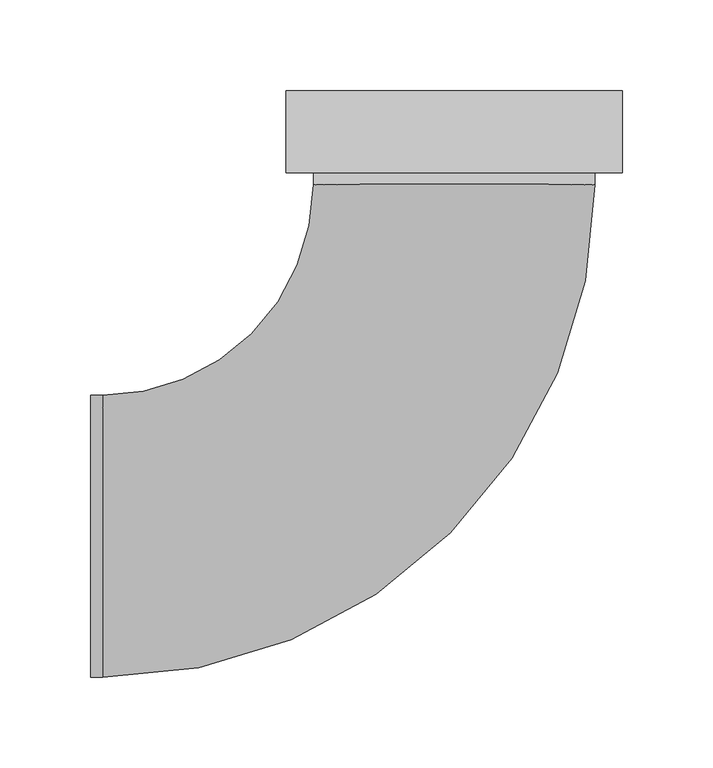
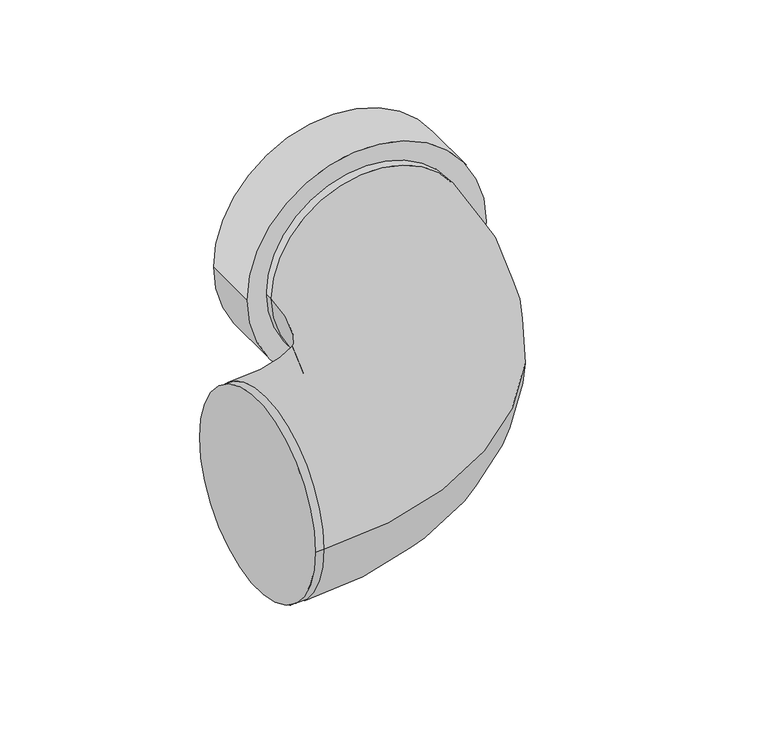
"""IFC4 building model written with IfcOpenShell, lengths in millimetres: duct fitting geometry, NLRS_57_DUF_UN_bend EPP_M&G : ø125 - ø180."""

import ifcopenshell
import ifcopenshell.guid

model = None  # the IFC model being written
_history = None  # IfcOwnerHistory: only IFC2X3 demands one
_inside = {}  # id of a spatial element -> (the spatial element, [elements in it])
_under = {}  # id of a project, library or spatial element -> (it, [spatial elements below it])
_declared = {}  # id of a project -> (the project, [libraries it declares])
_typed = {}  # id of a type object -> (the type object, [elements of that type])
_made_of = {}  # id of a material, layer set ... -> (it, [elements and type objects made of it])


def new_model(schema):
    """Start an empty IFC model of exactly this schema.

    Asked for "IFC4X3", IfcOpenShell would pick the latest addendum, in which some entities
    have other attributes; the version numbers below select the first issue.
    IFC2X3 requires an IfcOwnerHistory on every rooted entity: one is made here for all.
    """
    global model, _history
    if schema == "IFC4X3":
        model = ifcopenshell.file(schema_version=(4, 3, 0, 0))
    else:
        model = ifcopenshell.file(schema=schema)
    _inside.clear()
    _under.clear()
    _declared.clear()
    _typed.clear()
    _made_of.clear()
    _history = None
    if model.schema == "IFC2X3":
        org = make("IfcOrganization", Name="unknown")
        user = make(
            "IfcPersonAndOrganization",
            ThePerson=make("IfcPerson", FamilyName="unknown"),
            TheOrganization=org,
        )
        app = make(
            "IfcApplication",
            ApplicationDeveloper=org,
            Version="unknown",
            ApplicationFullName="unknown",
            ApplicationIdentifier="unknown",
        )
        _history = make(
            "IfcOwnerHistory",
            OwningUser=user,
            OwningApplication=app,
            ChangeAction="ADDED",
            CreationDate=0,
        )
    return model


def make(cls, **values):
    """One entity of the class cls with the attributes given. An attribute that is None is left unset."""
    return model.create_entity(
        cls, **{name: value for name, value in values.items() if value is not None}
    )


def rooted(cls, **values):
    """An entity with a GlobalId (a new one), such as an element, a storey or a relation."""
    return make(cls, GlobalId=ifcopenshell.guid.new(), OwnerHistory=_history, **values)


def si_unit(unit_type, name, prefix=None):
    """IfcSIUnit, for example si_unit("LENGTHUNIT", "METRE", prefix="MILLI")."""
    return make("IfcSIUnit", UnitType=unit_type, Prefix=prefix, Name=name)


def assignment(units):
    """IfcUnitAssignment: the units of a project."""
    return None if units is None else make("IfcUnitAssignment", Units=units)


def point(xyz):
    """IfcCartesianPoint."""
    return None if xyz is None else make("IfcCartesianPoint", Coordinates=xyz)


def direction(xyz):
    """IfcDirection."""
    return None if xyz is None else make("IfcDirection", DirectionRatios=xyz)


def frame(location, z_axis=None, x_axis=None):
    """IfcAxis2Placement3D, a coordinate frame: its origin and axes. An axis left out is left unset."""
    return make(
        "IfcAxis2Placement3D",
        Location=point(location),
        Axis=direction(z_axis),
        RefDirection=direction(x_axis),
    )


def origin():
    """The frame at (0, 0, 0) with its axes left unset."""
    return frame((0.0, 0.0, 0.0))


def place(relative_to, where):
    """IfcLocalPlacement: puts the frame where relative to a parent placement (None: the world)."""
    return make(
        "IfcLocalPlacement", PlacementRelTo=relative_to, RelativePlacement=where
    )


def context(
    kind, dimensions, precision=None, world=None, true_north=None, identifier=None
):
    """IfcGeometricRepresentationContext, for example the 3D "Model" context."""
    return make(
        "IfcGeometricRepresentationContext",
        ContextIdentifier=identifier,
        ContextType=kind,
        CoordinateSpaceDimension=dimensions,
        Precision=precision,
        WorldCoordinateSystem=world,
        TrueNorth=true_north,
    )


def project(units=None, contexts=None):
    """IfcProject with its units and contexts."""
    return rooted(
        "IfcProject",
        Name="project",
        RepresentationContexts=contexts,
        UnitsInContext=assignment(units),
    )


def spatial(cls, under=None, at=None, **own):
    """A site, building, storey or space (cls), placed at a placement, below another one or the project."""
    s = rooted(cls, ObjectPlacement=at, **own)
    if under is not None:
        _under.setdefault(under.id(), (under, []))[1].append(s)
    return s


def polyline(points):
    """IfcPolyline through the points."""
    return make("IfcPolyline", Points=[point(p) for p in points])


def circle_curve(where, radius):
    """IfcCircle in the frame where."""
    return make("IfcCircle", Position=where, Radius=radius)


def ellipse_curve(where, semi_axis1, semi_axis2):
    """IfcEllipse in the frame where."""
    return make(
        "IfcEllipse", Position=where, SemiAxis1=semi_axis1, SemiAxis2=semi_axis2
    )


def trimmed(basis, trim1, trim2, sense, master):
    """IfcTrimmedCurve: the piece of a basis curve between two trims."""
    return make(
        "IfcTrimmedCurve",
        BasisCurve=basis,
        Trim1=trim1,
        Trim2=trim2,
        SenseAgreement=sense,
        MasterRepresentation=master,
    )


def shape(context_of_items, identifier, shape_type, items):
    """IfcShapeRepresentation: the items that make up one representation, for example the "Body"."""
    return make(
        "IfcShapeRepresentation",
        ContextOfItems=context_of_items,
        RepresentationIdentifier=identifier,
        RepresentationType=shape_type,
        Items=items,
    )


def source(mapping_origin, context_of_items, identifier, shape_type, items):
    """IfcRepresentationMap: a shape defined once, which mapped items show again and again."""
    return make(
        "IfcRepresentationMap",
        MappingOrigin=mapping_origin,
        MappedRepresentation=shape(context_of_items, identifier, shape_type, items),
    )


def transform(
    local_origin,
    x_axis=None,
    y_axis=None,
    z_axis=None,
    scale=None,
    scale2=None,
    scale3=None,
    uniform=True,
):
    """IfcCartesianTransformationOperator3D, or its non-uniform kind. x_axis, y_axis, z_axis: its Axis1, 2, 3."""
    if uniform:
        return make(
            "IfcCartesianTransformationOperator3D",
            Axis1=direction(x_axis),
            Axis2=direction(y_axis),
            LocalOrigin=point(local_origin),
            Scale=scale,
            Axis3=direction(z_axis),
        )
    return make(
        "IfcCartesianTransformationOperator3DnonUniform",
        Axis1=direction(x_axis),
        Axis2=direction(y_axis),
        LocalOrigin=point(local_origin),
        Scale=scale,
        Axis3=direction(z_axis),
        Scale2=scale2,
        Scale3=scale3,
    )


def mapped(mapping_source, mapping_target):
    """IfcMappedItem: shows the shape of a source again, moved by a transform."""
    return make(
        "IfcMappedItem", MappingSource=mapping_source, MappingTarget=mapping_target
    )


def made_of(thing, what):
    """Note that an element or type object is made of a material, layer set ...; save() writes the relation."""
    if what is not None:
        _made_of.setdefault(what.id(), (what, []))[1].append(thing)
    return thing


def element(
    cls,
    number,
    at=None,
    inside=None,
    cuts=None,
    type_object=None,
    material=None,
    context=None,
    identifier="Body",
    shape_type=None,
    held_by="IfcProductDefinitionShape",
    body=None,
    shapes=None,
    **own,
):
    """One element of the class cls, such as IfcWall. Its Tag is "e" and its number.

    at: its placement. inside: the storey or other place that contains it. cuts: it is an
    opening in that element (IfcRelVoidsElement). A single representation is given by context,
    identifier, shape_type and body (its items); several are given by shapes. held_by: the class
    of the entity that holds the representations. save() writes the other relations.
    """
    e = rooted(cls, Tag="e%d" % number, ObjectPlacement=at, **own)
    if body is not None:
        shapes = [shape(context, identifier, shape_type, body)]
    if shapes is not None:
        e.Representation = make(held_by, Representations=shapes)
    if inside is not None:
        _inside.setdefault(inside.id(), (inside, []))[1].append(e)
    if cuts is not None:
        rooted(
            "IfcRelVoidsElement", RelatingBuildingElement=cuts, RelatedOpeningElement=e
        )
    if type_object is not None:
        _typed.setdefault(type_object.id(), (type_object, []))[1].append(e)
    return made_of(e, material)


def aggregate(whole, parts):
    """IfcRelAggregates: a whole, such as a stair, and the parts it consists of."""
    return rooted("IfcRelAggregates", RelatingObject=whole, RelatedObjects=parts)


def save(model, path):
    """Write the relations noted so far, then the file.

    IfcRelAggregates (storeys below a building ...), IfcRelContainedInSpatialStructure (elements
    in a storey), IfcRelDefinesByType, IfcRelAssociatesMaterial and IfcRelDeclares: one each for
    every whole, place, type object, material and project.
    """
    for whole, parts in _under.values():
        aggregate(whole, parts)
    for where, things in _inside.values():
        rooted(
            "IfcRelContainedInSpatialStructure",
            RelatedElements=things,
            RelatingStructure=where,
        )
    for kind, things in _typed.values():
        rooted("IfcRelDefinesByType", RelatedObjects=things, RelatingType=kind)
    for what, things in _made_of.values():
        rooted("IfcRelAssociatesMaterial", RelatedObjects=things, RelatingMaterial=what)
    for by, libraries in _declared.values():
        rooted("IfcRelDeclares", RelatingContext=by, RelatedDefinitions=libraries)
    model.write(path)


def plane_surface(at):
    """IfcPlane: the flat surface through the origin of the frame at, square to its z axis."""
    return make("IfcPlane", Position=at)


def cylinder_surface(at, radius):
    """IfcCylindricalSurface: all points at the distance radius from the z axis of the frame at."""
    return make("IfcCylindricalSurface", Position=at, Radius=radius)


def revolved_surface(curve, axis_point, axis_direction):
    """IfcSurfaceOfRevolution: the curve turned about the line through axis_point along axis_direction."""
    return make(
        "IfcSurfaceOfRevolution",
        SweptCurve=make("IfcArbitraryOpenProfileDef", ProfileType="CURVE", Curve=curve),
        AxisPosition=make("IfcAxis1Placement", Location=point(axis_point), Axis=direction(axis_direction)),
    )


def advanced_brep(points, edges, surfaces, faces):
    """IfcAdvancedBrep: a solid bounded by faces that lie on surfaces and meet in shared edges.

    An edge is (start, end): straight between two places in points (the first is 0);
    or (start, end, curve); or (start, end, curve, False) where it runs against its curve.
    A face is (place in surfaces, loops), or (place, loops, False) where it looks against
    its surface's normal. A loop lists edges by number (the first is 1), with a minus sign
    where the edge is run from its end to its start. The first loop is the outer one.
    """
    corners = [point(p) for p in points]
    vertices = [make("IfcVertexPoint", VertexGeometry=c) for c in corners]
    made = []
    for start, end, *more in edges:
        made.append(
            make(
                "IfcEdgeCurve",
                EdgeStart=vertices[start],
                EdgeEnd=vertices[end],
                EdgeGeometry=more[0] if more else make("IfcPolyline", Points=[corners[start], corners[end]]),
                SameSense=more[1] if len(more) > 1 else True,
            )
        )
    hull = []
    for where, loops, *sense in faces:
        bounds = []
        for j, loop in enumerate(loops):
            ring = [make("IfcOrientedEdge", EdgeElement=made[abs(k) - 1], Orientation=k > 0) for k in loop]
            bounds.append(
                make(
                    "IfcFaceOuterBound" if j == 0 else "IfcFaceBound",
                    Bound=make("IfcEdgeLoop", EdgeList=ring),
                    Orientation=True,
                )
            )
        hull.append(make("IfcAdvancedFace", Bounds=bounds, FaceSurface=surfaces[where], SameSense=sense[0] if sense else True))
    return make("IfcAdvancedBrep", Outer=make("IfcClosedShell", CfsFaces=hull))


def duct_fitting_0c18537b(model_context):
    return source(origin(), model_context, "Body", "AdvancedBrep", [
        advanced_brep(
        [(-200.0, -77.5, 0.0), (-200.0, 77.5, 0.0), (-193.5, -77.5, 0.0), (-193.5, 77.5, 0.0), (-77.5, 193.5, 0.0), (77.5, 193.5, 0.0), (77.5, 205.0, 0.0), (-77.5, 205.0, 0.0)],
        [
            (0, 1, circle_curve(frame((-200.0, 0.0, 0.0), z_axis=(-1.0, 0.0, 0.0), x_axis=(0.0, 1.0, 0.0)), 77.5)),
            (1, 0, circle_curve(frame((-200.0, 0.0, 0.0), z_axis=(-1.0, 0.0, 0.0), x_axis=(0.0, 1.0, 0.0)), 77.5)),
            (0, 2),
            (2, 3, circle_curve(frame((-193.5, 0.0, 0.0), z_axis=(-1.0, 0.0, 0.0), x_axis=(0.0, 1.0, 0.0)), 77.5)),
            (3, 1),
            (3, 2, circle_curve(frame((-193.5, 0.0, 0.0), z_axis=(-1.0, 0.0, 0.0), x_axis=(0.0, 1.0, 0.0)), 77.5)),
            (4, 3, circle_curve(frame((-193.5, 193.5, 0.0), z_axis=(0.0, 0.0, -1.0), x_axis=(0.0, -1.0, 0.0)), 116.0)),
            (2, 5, circle_curve(frame((-193.5, 193.5, 0.0), z_axis=(0.0, 0.0, 1.0), x_axis=(0.0, -1.0, 0.0)), 271.0)),
            (5, 4, circle_curve(frame((0.0, 193.5, 0.0), z_axis=(0.0, -1.0, 0.0), x_axis=(-1.0, 0.0, 0.0)), 77.5)),
            (4, 5, circle_curve(frame((0.0, 193.5, 0.0), z_axis=(0.0, -1.0, 0.0), x_axis=(-1.0, 0.0, 0.0)), 77.5)),
            (6, 7, circle_curve(frame((0.0, 205.0, 0.0), z_axis=(0.0, 1.0, 0.0), x_axis=(-1.0, 0.0, 0.0)), 77.5)),
            (7, 6, circle_curve(frame((0.0, 205.0, 0.0), z_axis=(0.0, 1.0, 0.0), x_axis=(-1.0, 0.0, 0.0)), 77.5)),
            (5, 6),
            (7, 4),
        ],
        [
            plane_surface(frame((-200.0, 0.0, 0.0), z_axis=(-1.0, 0.0, 0.0), x_axis=(0.0, 0.0, 1.0))),
            cylinder_surface(frame((-200.0, 0.0, 0.0), z_axis=(-1.0, 0.0, 0.0), x_axis=(0.0, 1.0, 0.0)), 77.5),
            revolved_surface(trimmed(ellipse_curve(frame((-193.5, 0.0, 0.0), z_axis=(-1.0, 0.0, 0.0), x_axis=(0.0, 1.0, 0.0)), 77.5, 77.5), [point((-193.5, -77.5, 0.0))], [point((-193.5, 77.5, 0.0))], True, "CARTESIAN"), (-193.5, 193.5, 0.0), (0.0, 0.0, 1.0)),
            revolved_surface(trimmed(ellipse_curve(frame((-193.5, 0.0, 0.0), z_axis=(-1.0, 0.0, 0.0), x_axis=(0.0, 1.0, 0.0)), 77.5, 77.5), [point((-193.5, 77.5, 0.0))], [point((-193.5, -77.5, 0.0))], True, "CARTESIAN"), (-193.5, 193.5, 0.0), (0.0, 0.0, 1.0)),
            plane_surface(frame((0.0, 205.0, 0.0), z_axis=(0.0, 1.0, 0.0), x_axis=(0.0, 0.0, 1.0))),
            cylinder_surface(frame((0.0, 193.5, 0.0), z_axis=(0.0, -1.0, 0.0), x_axis=(-1.0, 0.0, 0.0)), 77.5),
        ],
        [
            (0, [[1, 2]]),
            (1, [[-1, 3, 4, 5]]),
            (1, [[-2, -5, 6, -3]]),
            (2, [[7, -4, 8, 9]]),
            (3, [[-8, -6, -7, 10]]),
            (4, [[11, 12]]),
            (5, [[-9, 13, -12, 14]]),
            (5, [[-10, -14, -11, -13]]),
        ],
    ),
        advanced_brep(
        [(92.5, 200.0, 0.0), (-92.5, 200.0, 0.0), (92.5, 245.0, 0.0), (-92.5, 245.0, 0.0), (77.5, 245.0, 0.0), (-77.5, 245.0, 0.0), (77.5, 205.0, 0.0), (-77.5, 205.0, 0.0)],
        [
            (0, 1, circle_curve(frame((0.0, 200.0, 0.0), z_axis=(0.0, -1.0, 0.0), x_axis=(-1.0, 0.0, 0.0)), 92.5)),
            (1, 0, circle_curve(frame((0.0, 200.0, 0.0), z_axis=(0.0, -1.0, 0.0), x_axis=(-1.0, 0.0, 0.0)), 92.5)),
            (2, 3, circle_curve(frame((0.0, 245.0, 0.0), z_axis=(0.0, 1.0, 0.0), x_axis=(-1.0, 0.0, 0.0)), 92.5)),
            (3, 2, circle_curve(frame((0.0, 245.0, 0.0), z_axis=(0.0, 1.0, 0.0), x_axis=(-1.0, 0.0, 0.0)), 92.5)),
            (4, 5, circle_curve(frame((0.0, 245.0, 0.0), z_axis=(0.0, -1.0, 0.0), x_axis=(-1.0, 0.0, 0.0)), 77.5)),
            (5, 4, circle_curve(frame((0.0, 245.0, 0.0), z_axis=(0.0, -1.0, 0.0), x_axis=(-1.0, 0.0, 0.0)), 77.5)),
            (0, 2),
            (3, 1),
            (6, 7, circle_curve(frame((0.0, 205.0, 0.0), z_axis=(0.0, 1.0, 0.0), x_axis=(-1.0, 0.0, 0.0)), 77.5)),
            (7, 6, circle_curve(frame((0.0, 205.0, 0.0), z_axis=(0.0, 1.0, 0.0), x_axis=(-1.0, 0.0, 0.0)), 77.5)),
            (7, 5),
            (4, 6),
        ],
        [
            plane_surface(frame((0.0, 200.0, 0.0), z_axis=(0.0, -1.0, 0.0), x_axis=(0.0, 0.0, 1.0))),
            plane_surface(frame((0.0, 245.0, 0.0), z_axis=(0.0, 1.0, 0.0), x_axis=(0.0, 0.0, 1.0))),
            cylinder_surface(frame((0.0, 200.0, 0.0), z_axis=(0.0, -1.0, 0.0), x_axis=(-1.0, 0.0, 0.0)), 92.5),
            plane_surface(frame((0.0, 205.0, 0.0), z_axis=(0.0, 1.0, 0.0), x_axis=(0.0, 0.0, 1.0))),
            revolved_surface(polyline([(-77.5, 205.0, 0.0), (-77.5, 245.0, 0.0)]), (0.0, 205.0, 0.0), (0.0, -1.0, 0.0)),
        ],
        [
            (0, [[1, 2]]),
            (1, [[3, 4], [5, 6]]),
            (2, [[-1, 7, -4, 8]]),
            (2, [[-2, -8, -3, -7]]),
            (3, [[9, 10]]),
            (4, [[-10, 11, -5, 12]]),
            (4, [[-9, -12, -6, -11]]),
        ],
    ),
    ])


if __name__ == "__main__":
    model = new_model("IFC4")
    model_context = context("Model", 3, world=origin())
    ifc_project = project(units=[si_unit("LENGTHUNIT", "METRE", prefix="MILLI")], contexts=[model_context])
    site = spatial("IfcSite", under=ifc_project)
    building = spatial("IfcBuilding", under=site)
    placement = place(None, origin())
    duct_fitting_shape = duct_fitting_0c18537b(model_context)
    element("IfcDuctFitting", 1, ObjectType="NLRS_57_DUF_UN_bend EPP_M&G : ø125 - ø180", at=placement, inside=building, context=model_context, shape_type="MappedRepresentation", body=[
        mapped(duct_fitting_shape, transform((0.0, 0.0, 0.0), x_axis=(1.0, 0.0, 0.0), y_axis=(0.0, 1.0, 0.0), z_axis=(0.0, 0.0, 1.0))),
    ])
    save(model, "model.ifc")
